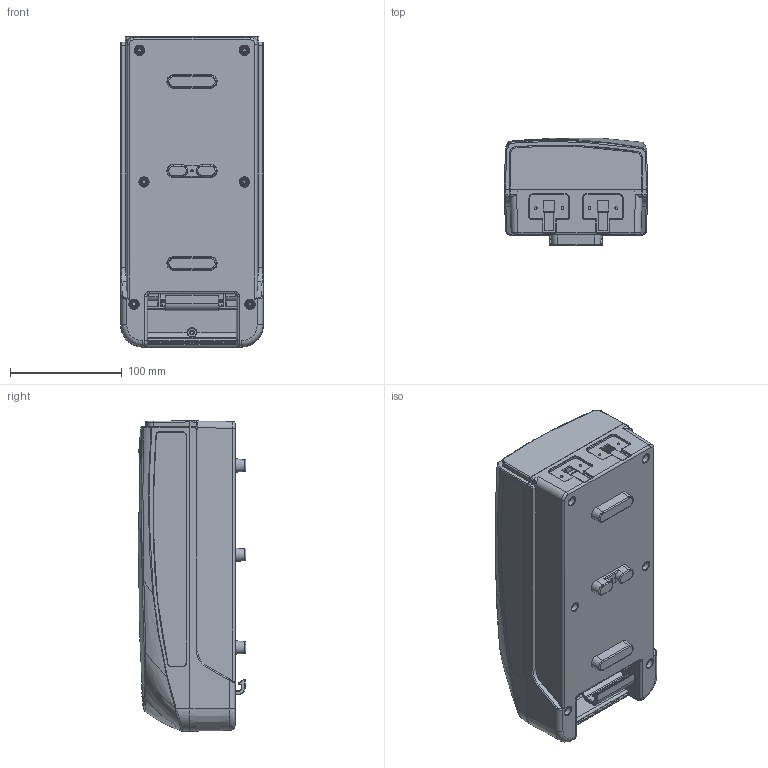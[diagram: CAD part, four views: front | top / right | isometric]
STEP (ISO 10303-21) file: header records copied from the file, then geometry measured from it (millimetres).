
FILE_DESCRIPTION((''),'2;1');
FILE_NAME('11','2021-01-30T',('USER'),(''),'PRO/ENGINEER BY PARAMETRIC TECHNOLOGY CORPORATION, 2016240','PRO/ENGINEER BY PARAMETRIC TECHNOLOGY CORPORATION, 2016240','');
FILE_SCHEMA(('CONFIG_CONTROL_DESIGN'));
Products named in the file (1): 11
Bounding box: 128 x 96.26 x 278 mm (x, y, z)
Surface area: 353749.6 mm2 (no closed solid volume)
Topology: 0 solids, 6 shells, 1645 faces, 4463 edges, 2889 vertices
Faces by surface type: plane 706, cylinder 367, bspline 215, cone 193, torus 122, extrusion 24, sphere 18
Entity records: 65226 total; most frequent: CARTESIAN_POINT 26457, ORIENTED_EDGE 8828, DIRECTION 6903, EDGE_CURVE 4443, VERTEX_POINT 2888, AXIS2_PLACEMENT_3D 2460, VECTOR 1983, LINE 1959
